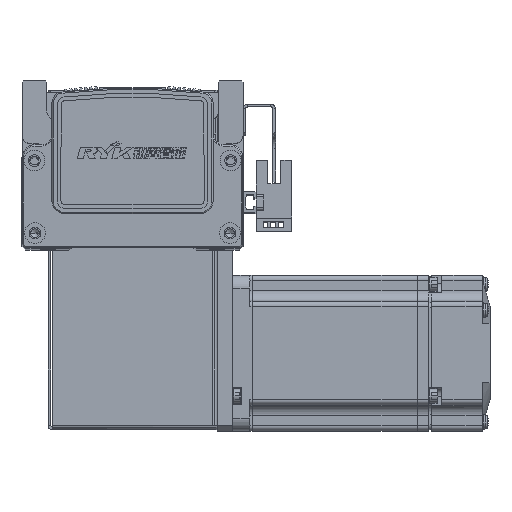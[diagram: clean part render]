
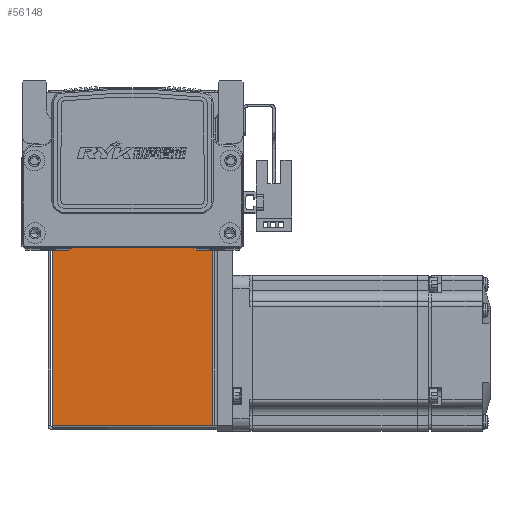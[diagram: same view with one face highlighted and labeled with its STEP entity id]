
A CAD part, top view. The second image highlights one B-rep face of the part: STEP entity #56148.
In plain terms, the highlighted planar face has unit normal (0, 0, 1).
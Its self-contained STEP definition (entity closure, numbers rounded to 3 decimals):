
#14559 = EDGE_LOOP ( 'NONE', ( #38374, #38324, #38325, #38371 ) ) ;
#16006 = CARTESIAN_POINT ( 'NONE',  ( 30.763, 0.737, 35. ) ) ;
#16016 = CARTESIAN_POINT ( 'NONE',  ( 30.763, 72.5, 35. ) ) ;
#16025 = CARTESIAN_POINT ( 'NONE',  ( -30.793, 72.5, 35. ) ) ;
#16066 = CARTESIAN_POINT ( 'NONE',  ( -30.793, 0.737, 35. ) ) ;
#38324 = ORIENTED_EDGE ( 'NONE', *, *, #46003, .T. ) ;
#38325 = ORIENTED_EDGE ( 'NONE', *, *, #45953, .F. ) ;
#38371 = ORIENTED_EDGE ( 'NONE', *, *, #45985, .F. ) ;
#38374 = ORIENTED_EDGE ( 'NONE', *, *, #45988, .T. ) ;
#40246 = VERTEX_POINT ( 'NONE', #16016 ) ;
#40251 = VERTEX_POINT ( 'NONE', #16006 ) ;
#40261 = VERTEX_POINT ( 'NONE', #16025 ) ;
#40264 = VERTEX_POINT ( 'NONE', #16066 ) ;
#45953 = EDGE_CURVE ( 'NONE', #40264, #40261, #56107, .T. ) ;
#45985 = EDGE_CURVE ( 'NONE', #40251, #40264, #56133, .T. ) ;
#45988 = EDGE_CURVE ( 'NONE', #40251, #40246, #56254, .T. ) ;
#46003 = EDGE_CURVE ( 'NONE', #40246, #40261, #56268, .T. ) ;
#55556 = CARTESIAN_POINT ( 'NONE',  ( -30.793, 0., 35. ) ) ;
#55585 = DIRECTION ( 'NONE',  ( 0., 1., 0. ) ) ;
#55603 = CARTESIAN_POINT ( 'NONE',  ( 0., 72.5, 35. ) ) ;
#55605 = DIRECTION ( 'NONE',  ( -1., 0., 0. ) ) ;
#55607 = DIRECTION ( 'NONE',  ( -1., 0., 0. ) ) ;
#55616 = CARTESIAN_POINT ( 'NONE',  ( -32.5, 0.737, 35. ) ) ;
#55634 = CARTESIAN_POINT ( 'NONE',  ( 30.763, 0.737, 35. ) ) ;
#55639 = DIRECTION ( 'NONE',  ( 0., 1., 0. ) ) ;
#56107 = LINE ( 'NONE', #55556, #56165 ) ;
#56131 = VECTOR ( 'NONE', #55605, 1000. ) ;
#56133 = LINE ( 'NONE', #55616, #56131 ) ;
#56148 = ADVANCED_FACE ( 'NONE', ( #57134 ), #66440, .F. ) ;
#56165 = VECTOR ( 'NONE', #55585, 1000. ) ;
#56235 = VECTOR ( 'NONE', #55607, 1000. ) ;
#56238 = VECTOR ( 'NONE', #55639, 1000. ) ;
#56254 = LINE ( 'NONE', #55634, #56238 ) ;
#56268 = LINE ( 'NONE', #55603, #56235 ) ;
#57134 = FACE_OUTER_BOUND ( 'NONE', #14559, .T. ) ;
#62405 = AXIS2_PLACEMENT_3D ( 'NONE', #66449, #66480, #66495 ) ;
#66440 = PLANE ( 'NONE',  #62405 ) ;
#66449 = CARTESIAN_POINT ( 'NONE',  ( 0., 0., 35. ) ) ;
#66480 = DIRECTION ( 'NONE',  ( 0., 0., -1. ) ) ;
#66495 = DIRECTION ( 'NONE',  ( -1., 0., 0. ) ) ;
